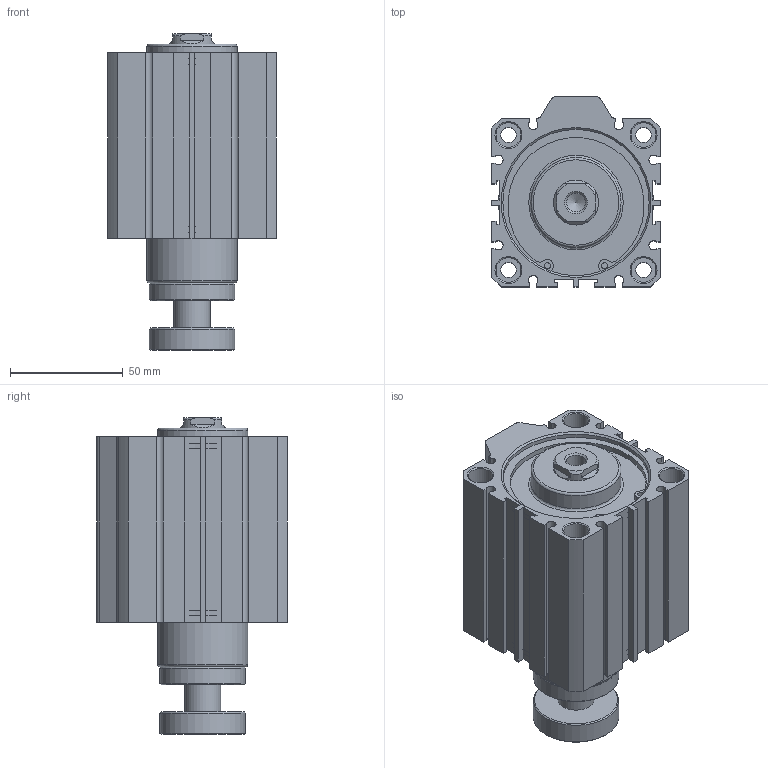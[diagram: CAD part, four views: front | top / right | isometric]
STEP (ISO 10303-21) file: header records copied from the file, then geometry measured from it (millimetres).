
FILE_DESCRIPTION((''),'2;1');
FILE_NAME('I:\3D電子目錄\氣缸\JDAR\JDAR-S\JDAR63-S\JDAR63x40-S.stp','2007-05-05T10:25:57',('662F206'),(''),'Autodesk Inventor 11','Autodesk Inventor 11','');
FILE_SCHEMA(('AUTOMOTIVE_DESIGN { 1 0 10303 214 1 1 1 1 }'));
Length unit declared in the file: millimetre
Products named in the file (3): JDAR63-S; R 形環 65
Assembly tree (3 placements, depth 2):
  JDAR63-S
    JDAR63-S
    R 形環 65  x2
Bounding box: 75 x 84.5 x 140.8 mm (x, y, z)
Volume: 472051.7 mm3; surface area: 73156.1 mm2
Topology: 3 solids, 3 shells, 197 faces, 484 edges, 317 vertices
Faces by surface type: plane 110, cylinder 58, cone 23, bspline 4, torus 2
Full cylindrical faces by diameter (mm): 2.7 x4, 3 x2, 6.8 x4, 11 x8, 16 x1, 20 x1, 38 x2, 40 x2, 65 x4, 68 x2
Entity records: 5335 total; most frequent: CARTESIAN_POINT 1013, DIRECTION 898, ORIENTED_EDGE 788, EDGE_CURVE 394, AXIS2_PLACEMENT_3D 325, VERTEX_POINT 290, EDGE_LOOP 274, VECTOR 248
